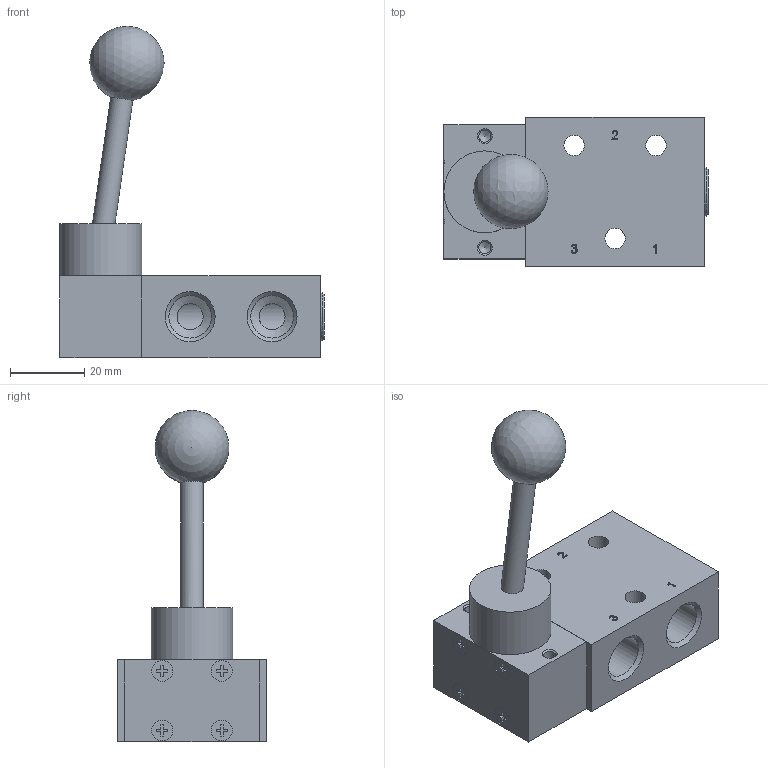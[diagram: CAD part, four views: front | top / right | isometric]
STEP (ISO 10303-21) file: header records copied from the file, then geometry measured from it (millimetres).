
FILE_DESCRIPTION(/* description */ ('Unknown'),/* implementation_level */ '2;1');
FILE_NAME(/* name */ 'HVR 320 701',/* time_stamp */ '2017-09-15T14:31:54+02:00',/* author */ ('Unknown'),/* organization */ ('Unknown'),/* preprocessor_version */ 'ST-DEVELOPER v16.7',/* originating_system */ 'DEX',/* authorisation */ $);
FILE_SCHEMA (('AUTOMOTIVE_DESIGN {1 0 10303 214 3 1 1}'));
Length unit declared in the file: millimetre
Products named in the file (2): HVR 320 701
Assembly tree (1 placements, depth 2):
  HVR 320 701
    HVR 320 701
Bounding box: 71 x 40 x 89 mm (x, y, z)
Volume: 57498.2 mm3; surface area: 20246.9 mm2
Topology: 3 solids, 3 shells, 214 faces, 558 edges, 368 vertices
Faces by surface type: plane 106, cylinder 44, bspline 39, cone 23, torus 1, sphere 1
Full cylindrical faces by diameter (mm): 1.6 x1, 2.459 x8, 3.242 x4, 5.5 x3, 5.6 x4, 6 x1, 7 x3, 9 x1, 10 x1, 11.445 x6, 12 x2, 12.06 x1, 13 x1, 22 x1
Entity records: 8001 total; most frequent: CARTESIAN_POINT 1912, ORIENTED_EDGE 922, DIRECTION 823, EDGE_CURVE 461, VERTEX_POINT 339, FACE_BOUND 316, EDGE_LOOP 310, LINE 285
